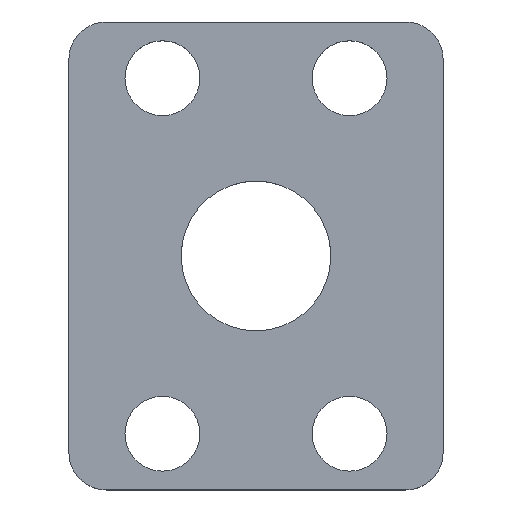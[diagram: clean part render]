
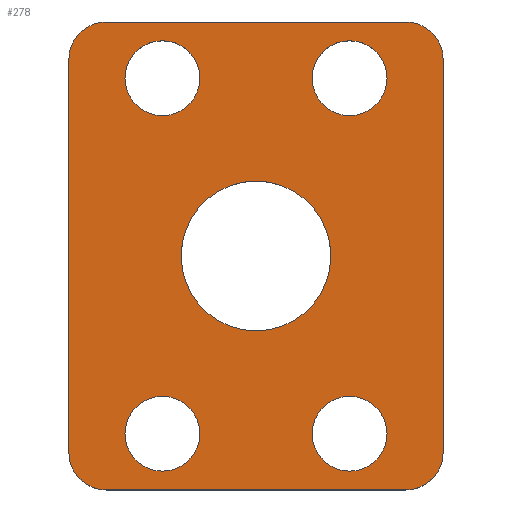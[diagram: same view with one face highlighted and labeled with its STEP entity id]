
A CAD part, top view. The second image highlights one B-rep face of the part: STEP entity #278.
In plain terms, the highlighted planar face has unit normal (0, 0, 1).
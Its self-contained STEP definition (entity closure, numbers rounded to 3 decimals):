
#38=CIRCLE('',#316,2.);
#39=CIRCLE('',#317,2.);
#40=CIRCLE('',#318,2.);
#41=CIRCLE('',#319,2.);
#42=CIRCLE('',#320,4.);
#43=CIRCLE('',#321,2.);
#44=CIRCLE('',#322,2.);
#45=CIRCLE('',#323,2.);
#46=CIRCLE('',#324,2.);
#76=ORIENTED_EDGE('',*,*,#140,.F.);
#77=ORIENTED_EDGE('',*,*,#141,.F.);
#78=ORIENTED_EDGE('',*,*,#142,.F.);
#79=ORIENTED_EDGE('',*,*,#143,.F.);
#80=ORIENTED_EDGE('',*,*,#144,.T.);
#81=ORIENTED_EDGE('',*,*,#125,.T.);
#82=ORIENTED_EDGE('',*,*,#145,.T.);
#83=ORIENTED_EDGE('',*,*,#127,.T.);
#84=ORIENTED_EDGE('',*,*,#146,.T.);
#85=ORIENTED_EDGE('',*,*,#115,.T.);
#86=ORIENTED_EDGE('',*,*,#147,.T.);
#87=ORIENTED_EDGE('',*,*,#119,.T.);
#88=ORIENTED_EDGE('',*,*,#148,.T.);
#115=EDGE_CURVE('',#149,#150,#175,.T.);
#119=EDGE_CURVE('',#153,#154,#179,.T.);
#125=EDGE_CURVE('',#160,#159,#185,.T.);
#127=EDGE_CURVE('',#161,#162,#187,.T.);
#140=EDGE_CURVE('',#170,#170,#38,.T.);
#141=EDGE_CURVE('',#171,#171,#39,.T.);
#142=EDGE_CURVE('',#172,#172,#40,.T.);
#143=EDGE_CURVE('',#173,#173,#41,.T.);
#144=EDGE_CURVE('',#174,#174,#42,.T.);
#145=EDGE_CURVE('',#159,#161,#43,.T.);
#146=EDGE_CURVE('',#162,#149,#44,.T.);
#147=EDGE_CURVE('',#150,#153,#45,.T.);
#148=EDGE_CURVE('',#154,#160,#46,.T.);
#149=VERTEX_POINT('',#421);
#150=VERTEX_POINT('',#422);
#153=VERTEX_POINT('',#430);
#154=VERTEX_POINT('',#431);
#159=VERTEX_POINT('',#442);
#160=VERTEX_POINT('',#444);
#161=VERTEX_POINT('',#448);
#162=VERTEX_POINT('',#449);
#170=VERTEX_POINT('',#472);
#171=VERTEX_POINT('',#474);
#172=VERTEX_POINT('',#476);
#173=VERTEX_POINT('',#478);
#174=VERTEX_POINT('',#480);
#175=LINE('',#420,#191);
#179=LINE('',#429,#195);
#185=LINE('',#443,#201);
#187=LINE('',#447,#203);
#191=VECTOR('',#338,1000.);
#195=VECTOR('',#344,1000.);
#201=VECTOR('',#352,1000.);
#203=VECTOR('',#356,1000.);
#217=EDGE_LOOP('',(#76));
#218=EDGE_LOOP('',(#77));
#219=EDGE_LOOP('',(#78));
#220=EDGE_LOOP('',(#79));
#221=EDGE_LOOP('',(#80));
#222=EDGE_LOOP('',(#81,#82,#83,#84,#85,#86,#87,#88));
#247=FACE_BOUND('',#217,.T.);
#248=FACE_BOUND('',#218,.T.);
#249=FACE_BOUND('',#219,.T.);
#250=FACE_BOUND('',#220,.T.);
#251=FACE_BOUND('',#221,.T.);
#252=FACE_BOUND('',#222,.T.);
#272=PLANE('',#315);
#278=ADVANCED_FACE('',(#247,#248,#249,#250,#251,#252),#272,.T.);
#315=AXIS2_PLACEMENT_3D('',#470,#380,#381);
#316=AXIS2_PLACEMENT_3D('',#471,#382,#383);
#317=AXIS2_PLACEMENT_3D('',#473,#384,#385);
#318=AXIS2_PLACEMENT_3D('',#475,#386,#387);
#319=AXIS2_PLACEMENT_3D('',#477,#388,#389);
#320=AXIS2_PLACEMENT_3D('',#479,#390,#391);
#321=AXIS2_PLACEMENT_3D('',#481,#392,#393);
#322=AXIS2_PLACEMENT_3D('',#482,#394,#395);
#323=AXIS2_PLACEMENT_3D('',#483,#396,#397);
#324=AXIS2_PLACEMENT_3D('',#484,#398,#399);
#338=DIRECTION('',(0.,-1.,0.));
#344=DIRECTION('',(1.,0.,0.));
#352=DIRECTION('',(0.,1.,0.));
#356=DIRECTION('',(-1.,0.,0.));
#380=DIRECTION('',(0.,0.,1.));
#381=DIRECTION('',(1.,0.,0.));
#382=DIRECTION('',(0.,0.,1.));
#383=DIRECTION('',(1.,0.,0.));
#384=DIRECTION('',(0.,0.,1.));
#385=DIRECTION('',(1.,0.,0.));
#386=DIRECTION('',(0.,0.,1.));
#387=DIRECTION('',(1.,0.,0.));
#388=DIRECTION('',(0.,0.,1.));
#389=DIRECTION('',(1.,0.,0.));
#390=DIRECTION('',(0.,0.,-1.));
#391=DIRECTION('',(1.,0.,0.));
#392=DIRECTION('',(0.,0.,1.));
#393=DIRECTION('',(1.,0.,0.));
#394=DIRECTION('',(0.,0.,1.));
#395=DIRECTION('',(1.,0.,0.));
#396=DIRECTION('',(0.,0.,1.));
#397=DIRECTION('',(1.,0.,0.));
#398=DIRECTION('',(0.,0.,1.));
#399=DIRECTION('',(1.,0.,0.));
#420=CARTESIAN_POINT('',(-10.,12.5,0.));
#421=CARTESIAN_POINT('',(-10.,10.5,0.));
#422=CARTESIAN_POINT('',(-10.,-10.5,0.));
#429=CARTESIAN_POINT('',(-10.,-12.5,0.));
#430=CARTESIAN_POINT('',(-8.,-12.5,0.));
#431=CARTESIAN_POINT('',(8.,-12.5,0.));
#442=CARTESIAN_POINT('',(10.,10.5,0.));
#443=CARTESIAN_POINT('',(10.,-12.5,0.));
#444=CARTESIAN_POINT('',(10.,-10.5,0.));
#447=CARTESIAN_POINT('',(10.,12.5,0.));
#448=CARTESIAN_POINT('',(8.,12.5,0.));
#449=CARTESIAN_POINT('',(-8.,12.5,0.));
#470=CARTESIAN_POINT('',(0.,0.,0.));
#471=CARTESIAN_POINT('',(5.,-9.5,0.));
#472=CARTESIAN_POINT('',(7.,-9.5,0.));
#473=CARTESIAN_POINT('',(-5.,-9.5,0.));
#474=CARTESIAN_POINT('',(-3.,-9.5,0.));
#475=CARTESIAN_POINT('',(-5.,9.5,0.));
#476=CARTESIAN_POINT('',(-3.,9.5,0.));
#477=CARTESIAN_POINT('',(5.,9.5,0.));
#478=CARTESIAN_POINT('',(7.,9.5,0.));
#479=CARTESIAN_POINT('',(0.,0.,0.));
#480=CARTESIAN_POINT('',(4.,0.,0.));
#481=CARTESIAN_POINT('',(8.,10.5,0.));
#482=CARTESIAN_POINT('',(-8.,10.5,0.));
#483=CARTESIAN_POINT('',(-8.,-10.5,0.));
#484=CARTESIAN_POINT('',(8.,-10.5,0.));
